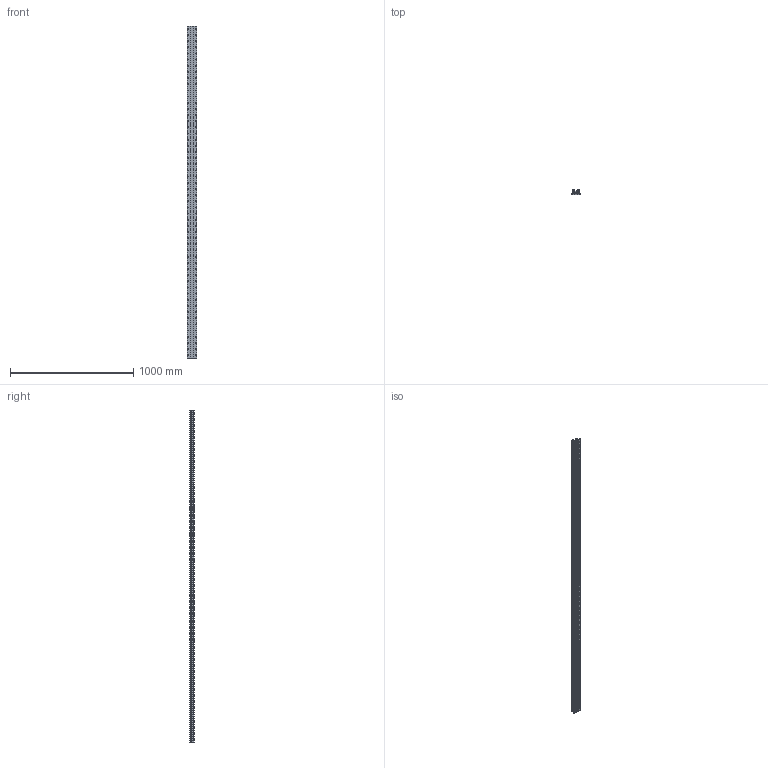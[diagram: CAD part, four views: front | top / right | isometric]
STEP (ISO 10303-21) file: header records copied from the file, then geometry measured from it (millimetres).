
FILE_DESCRIPTION (( 'STEP AP203' ), '1' );
FILE_NAME ('LFS-8-7_-_L=2696.step', '2006-12-18T13:28:47', ( ' ' ), ( ' ' ), 'SwSTEP 2.0', 'SolidWorks 2006089', '' );
FILE_SCHEMA (( 'CONFIG_CONTROL_DESIGN' ));
Length unit declared in the file: millimetre
Products named in the file (1): LFS-8-7_-_L=2696
Bounding box: 78 x 36 x 2696 mm (x, y, z)
Volume: 2332705.7 mm3; surface area: 1498645.3 mm2
Topology: 3 solids, 3 shells, 607 faces, 1911 edges, 1202 vertices
Faces by surface type: plane 335, cylinder 272
Entity records: 21498 total; most frequent: CARTESIAN_POINT 5017, ORIENTED_EDGE 3822, DIRECTION 3239, EDGE_CURVE 1911, VERTEX_POINT 1202, AXIS2_PLACEMENT_3D 1152, VECTOR 935, LINE 935
